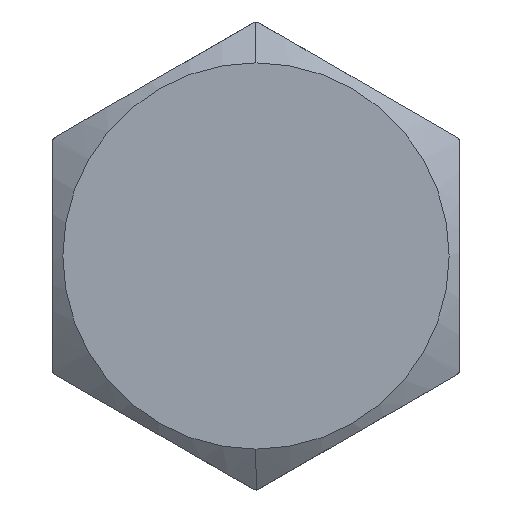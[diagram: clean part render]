
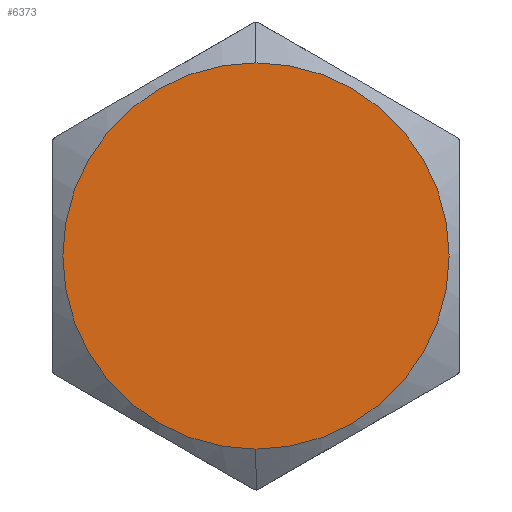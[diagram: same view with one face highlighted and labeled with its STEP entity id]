
A CAD part, left-side view. The second image highlights one B-rep face of the part: STEP entity #6373.
In plain terms, the highlighted planar face has unit normal (-1, 0, 0).
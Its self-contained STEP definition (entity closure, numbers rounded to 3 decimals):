
#64 = EDGE_CURVE ( 'NONE', #2406, #2353, #1928, .T. ) ;
#113 = ORIENTED_EDGE ( 'NONE', *, *, #6353, .T. ) ;
#301 = ORIENTED_EDGE ( 'NONE', *, *, #64, .T. ) ;
#458 = EDGE_LOOP ( 'NONE', ( #301, #113 ) ) ;
#1497 = DIRECTION ( 'NONE',  ( -1., 0., 0. ) ) ;
#1569 = DIRECTION ( 'NONE',  ( 0., 0., 1. ) ) ;
#1835 = CARTESIAN_POINT ( 'NONE',  ( 0., 0., 0. ) ) ;
#1928 = CIRCLE ( 'NONE', #1939, 19. ) ;
#1933 = CIRCLE ( 'NONE', #2084, 19. ) ;
#1939 = AXIS2_PLACEMENT_3D ( 'NONE', #1835, #1497, #1569 ) ;
#2022 = AXIS2_PLACEMENT_3D ( 'NONE', #6295, #6305, #6306 ) ;
#2084 = AXIS2_PLACEMENT_3D ( 'NONE', #6180, #6181, #6182 ) ;
#2353 = VERTEX_POINT ( 'NONE', #5239 ) ;
#2406 = VERTEX_POINT ( 'NONE', #5290 ) ;
#5239 = CARTESIAN_POINT ( 'NONE',  ( 0., 0., -19. ) ) ;
#5290 = CARTESIAN_POINT ( 'NONE',  ( 0., 0., 19. ) ) ;
#6180 = CARTESIAN_POINT ( 'NONE',  ( 0., 0., 0. ) ) ;
#6181 = DIRECTION ( 'NONE',  ( -1., 0., 0. ) ) ;
#6182 = DIRECTION ( 'NONE',  ( 0., 0., 1. ) ) ;
#6295 = CARTESIAN_POINT ( 'NONE',  ( 0., 0., 0. ) ) ;
#6298 = PLANE ( 'NONE',  #2022 ) ;
#6304 = FACE_OUTER_BOUND ( 'NONE', #458, .T. ) ;
#6305 = DIRECTION ( 'NONE',  ( -1., 0., 0. ) ) ;
#6306 = DIRECTION ( 'NONE',  ( 0., 0., 1. ) ) ;
#6353 = EDGE_CURVE ( 'NONE', #2353, #2406, #1933, .T. ) ;
#6373 = ADVANCED_FACE ( 'NONE', ( #6304 ), #6298, .T. ) ;
